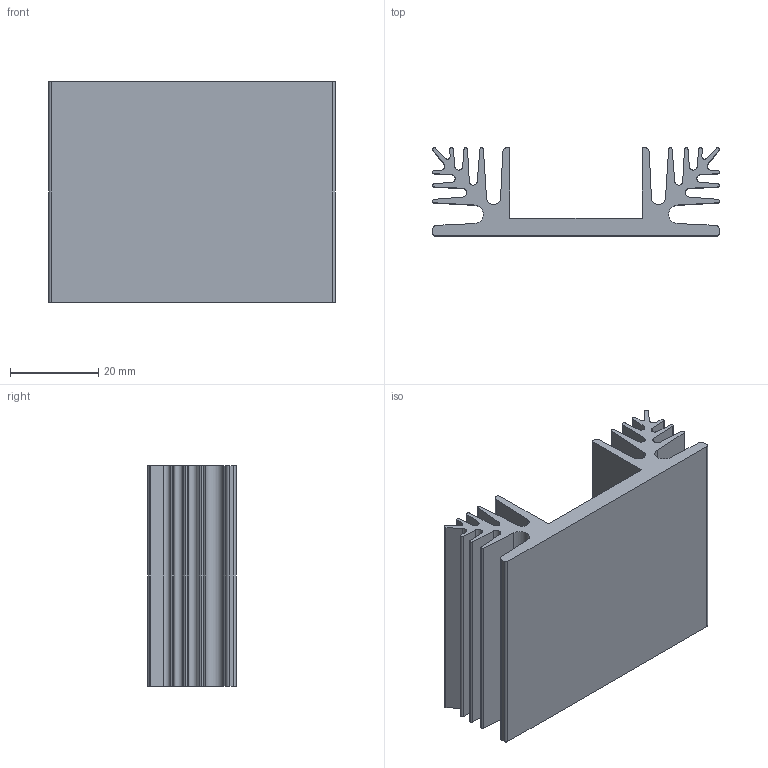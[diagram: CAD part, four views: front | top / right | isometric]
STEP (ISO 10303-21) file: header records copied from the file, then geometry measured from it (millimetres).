
FILE_DESCRIPTION (( 'STEP AP203' ), '1' );
FILE_NAME ('PR 125-50.step', '2002-10-20T23:18:58', ( 'Wolfgang Müller' ), ( 'DPS' ), 'SwSTEP 2.0', 'SolidWorks 2002264', '' );
FILE_SCHEMA (( 'CONFIG_CONTROL_DESIGN' ));
Length unit declared in the file: millimetre
Products named in the file (1): PR 125-50
Bounding box: 65 x 20 x 50 mm (x, y, z)
Volume: 24067.2 mm3; surface area: 20457.1 mm2
Topology: 1 solids, 1 shells, 90 faces, 264 edges, 176 vertices
Faces by surface type: cylinder 48, plane 42
Entity records: 3101 total; most frequent: DIRECTION 542, CARTESIAN_POINT 531, ORIENTED_EDGE 528, EDGE_CURVE 264, AXIS2_PLACEMENT_3D 187, VERTEX_POINT 176, LINE 168, VECTOR 168
